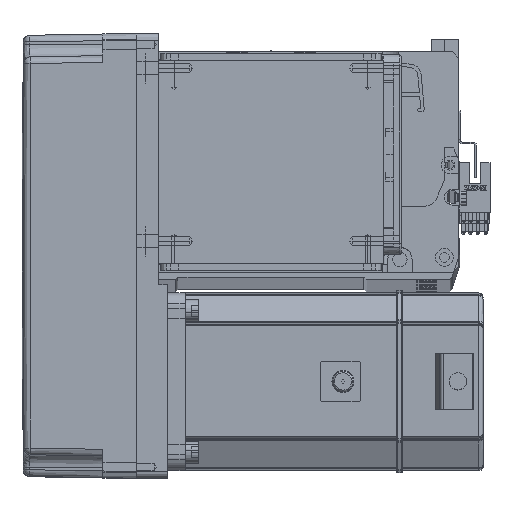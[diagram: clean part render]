
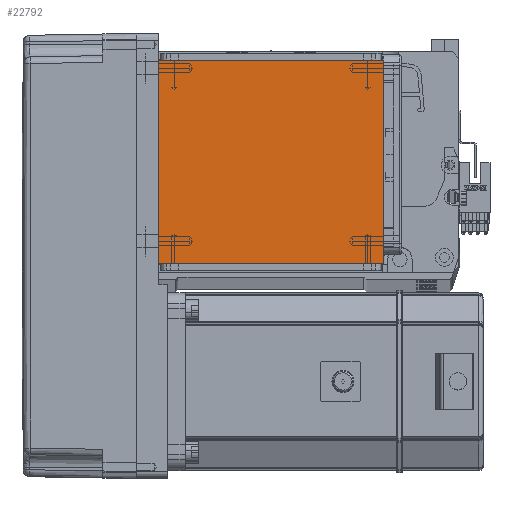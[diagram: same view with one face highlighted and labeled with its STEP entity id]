
A CAD part, top view. The second image highlights one B-rep face of the part: STEP entity #22792.
In plain terms, the highlighted planar face has unit normal (0, 0, 1).
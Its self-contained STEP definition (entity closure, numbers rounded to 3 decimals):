
#4403 = EDGE_CURVE ( 'NONE', #11482, #45422, #56084, .T. ) ;
#4425 = ORIENTED_EDGE ( 'NONE', *, *, #24545, .T. ) ;
#6353 = EDGE_CURVE ( 'NONE', #14090, #54571, #17465, .T. ) ;
#10447 = CARTESIAN_POINT ( 'NONE',  ( 50.5, 20., 115. ) ) ;
#10581 = CARTESIAN_POINT ( 'NONE',  ( -50.5, 111.5, 115. ) ) ;
#10987 = AXIS2_PLACEMENT_3D ( 'NONE', #61088, #30285, #35434 ) ;
#11482 = VERTEX_POINT ( 'NONE', #10581 ) ;
#14090 = VERTEX_POINT ( 'NONE', #10447 ) ;
#14145 = EDGE_CURVE ( 'NONE', #14090, #45422, #53508, .T. ) ;
#17465 = LINE ( 'NONE', #48547, #55311 ) ;
#21289 = CARTESIAN_POINT ( 'NONE',  ( 50.5, 122., 115. ) ) ;
#22792 = ADVANCED_FACE ( 'NONE', ( #41727 ), #55697, .T. ) ;
#22962 = VECTOR ( 'NONE', #41460, 1000. ) ;
#24545 = EDGE_CURVE ( 'NONE', #11482, #54571, #29406, .T. ) ;
#27440 = CARTESIAN_POINT ( 'NONE',  ( -50.5, 20., 115. ) ) ;
#28101 = DIRECTION ( 'NONE',  ( -1., 0., 0. ) ) ;
#28387 = EDGE_LOOP ( 'NONE', ( #58712, #4425, #30631, #57028 ) ) ;
#29406 = LINE ( 'NONE', #30901, #22962 ) ;
#30285 = DIRECTION ( 'NONE',  ( 0., 0., 1. ) ) ;
#30631 = ORIENTED_EDGE ( 'NONE', *, *, #6353, .F. ) ;
#30901 = CARTESIAN_POINT ( 'NONE',  ( -50.5, 122., 115. ) ) ;
#30993 = VECTOR ( 'NONE', #57073, 1000. ) ;
#32585 = CARTESIAN_POINT ( 'NONE',  ( 50.5, 111.5, 115. ) ) ;
#35434 = DIRECTION ( 'NONE',  ( 1., 0., 0. ) ) ;
#37488 = DIRECTION ( 'NONE',  ( 1., 0., 0. ) ) ;
#41460 = DIRECTION ( 'NONE',  ( 0., -1., 0. ) ) ;
#41727 = FACE_OUTER_BOUND ( 'NONE', #28387, .T. ) ;
#42411 = VECTOR ( 'NONE', #37488, 1000. ) ;
#45422 = VERTEX_POINT ( 'NONE', #32585 ) ;
#48547 = CARTESIAN_POINT ( 'NONE',  ( -70.004, 20., 115. ) ) ;
#53508 = LINE ( 'NONE', #21289, #30993 ) ;
#54571 = VERTEX_POINT ( 'NONE', #27440 ) ;
#55311 = VECTOR ( 'NONE', #28101, 1000. ) ;
#55697 = PLANE ( 'NONE',  #10987 ) ;
#56084 = LINE ( 'NONE', #57744, #42411 ) ;
#57028 = ORIENTED_EDGE ( 'NONE', *, *, #14145, .T. ) ;
#57073 = DIRECTION ( 'NONE',  ( 0., 1., 0. ) ) ;
#57744 = CARTESIAN_POINT ( 'NONE',  ( -70.004, 111.5, 115. ) ) ;
#58712 = ORIENTED_EDGE ( 'NONE', *, *, #4403, .F. ) ;
#61088 = CARTESIAN_POINT ( 'NONE',  ( 0., 0., 115. ) ) ;
